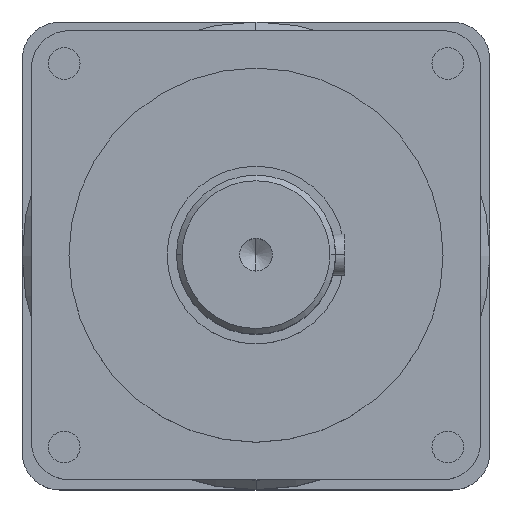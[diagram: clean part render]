
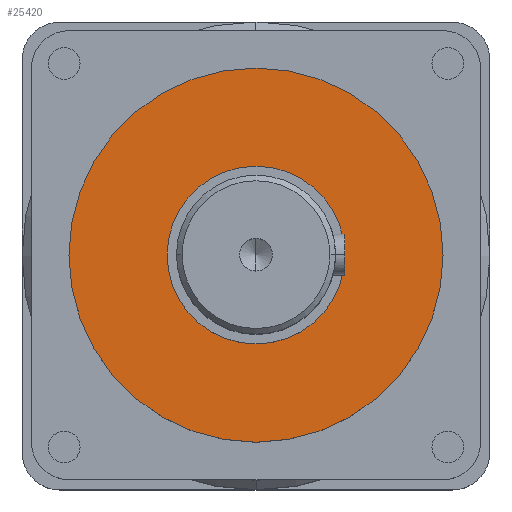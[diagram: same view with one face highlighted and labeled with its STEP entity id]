
A CAD part, top view. The second image highlights one B-rep face of the part: STEP entity #25420.
In plain terms, the highlighted planar face has unit normal (0, 0, 1).
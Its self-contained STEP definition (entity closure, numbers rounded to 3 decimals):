
#864 = AXIS2_PLACEMENT_3D ( 'NONE', #11881, #19475, #4649 ) ;
#1790 = CARTESIAN_POINT ( 'NONE',  ( -47.5, 0., 20. ) ) ;
#2071 = PLANE ( 'NONE',  #864 ) ;
#2470 = EDGE_LOOP ( 'NONE', ( #7732, #6360 ) ) ;
#2877 = AXIS2_PLACEMENT_3D ( 'NONE', #26722, #11618, #29246 ) ;
#4649 = DIRECTION ( 'NONE',  ( 1., 0., 0. ) ) ;
#4846 = ORIENTED_EDGE ( 'NONE', *, *, #22425, .T. ) ;
#4958 = AXIS2_PLACEMENT_3D ( 'NONE', #9866, #27480, #12368 ) ;
#5868 = AXIS2_PLACEMENT_3D ( 'NONE', #7609, #25138, #10039 ) ;
#6027 = VERTEX_POINT ( 'NONE', #1790 ) ;
#6122 = CARTESIAN_POINT ( 'NONE',  ( 47.5, 0., 20. ) ) ;
#6360 = ORIENTED_EDGE ( 'NONE', *, *, #15726, .F. ) ;
#7105 = CIRCLE ( 'NONE', #2877, 47.5 ) ;
#7407 = ORIENTED_EDGE ( 'NONE', *, *, #28719, .T. ) ;
#7609 = CARTESIAN_POINT ( 'NONE',  ( 0., 0., 20. ) ) ;
#7732 = ORIENTED_EDGE ( 'NONE', *, *, #8666, .F. ) ;
#8666 = EDGE_CURVE ( 'NONE', #10826, #27183, #18813, .T. ) ;
#9866 = CARTESIAN_POINT ( 'NONE',  ( 0., 0., 20. ) ) ;
#10039 = DIRECTION ( 'NONE',  ( -1., 0., 0. ) ) ;
#10098 = CIRCLE ( 'NONE', #5868, 100. ) ;
#10826 = VERTEX_POINT ( 'NONE', #17033 ) ;
#11618 = DIRECTION ( 'NONE',  ( 0., 0., -1. ) ) ;
#11881 = CARTESIAN_POINT ( 'NONE',  ( 0., 0., 20. ) ) ;
#11899 = FACE_BOUND ( 'NONE', #14459, .T. ) ;
#12368 = DIRECTION ( 'NONE',  ( -1., 0., 0. ) ) ;
#12663 = FACE_OUTER_BOUND ( 'NONE', #2470, .T. ) ;
#13128 = AXIS2_PLACEMENT_3D ( 'NONE', #29062, #13941, #31508 ) ;
#13941 = DIRECTION ( 'NONE',  ( 0., 0., -1. ) ) ;
#14459 = EDGE_LOOP ( 'NONE', ( #7407, #4846 ) ) ;
#15222 = CARTESIAN_POINT ( 'NONE',  ( 100., 0., 20. ) ) ;
#15726 = EDGE_CURVE ( 'NONE', #27183, #10826, #10098, .T. ) ;
#17033 = CARTESIAN_POINT ( 'NONE',  ( -100., 0., 20. ) ) ;
#18813 = CIRCLE ( 'NONE', #4958, 100. ) ;
#19475 = DIRECTION ( 'NONE',  ( 0., 0., 1. ) ) ;
#22295 = CIRCLE ( 'NONE', #13128, 47.5 ) ;
#22425 = EDGE_CURVE ( 'NONE', #27368, #6027, #22295, .T. ) ;
#25138 = DIRECTION ( 'NONE',  ( 0., 0., -1. ) ) ;
#25420 = ADVANCED_FACE ( 'NONE', ( #11899, #12663 ), #2071, .T. ) ;
#26722 = CARTESIAN_POINT ( 'NONE',  ( 0., 0., 20. ) ) ;
#27183 = VERTEX_POINT ( 'NONE', #15222 ) ;
#27368 = VERTEX_POINT ( 'NONE', #6122 ) ;
#27480 = DIRECTION ( 'NONE',  ( 0., 0., -1. ) ) ;
#28719 = EDGE_CURVE ( 'NONE', #6027, #27368, #7105, .T. ) ;
#29062 = CARTESIAN_POINT ( 'NONE',  ( 0., 0., 20. ) ) ;
#29246 = DIRECTION ( 'NONE',  ( -1., 0., 0. ) ) ;
#31508 = DIRECTION ( 'NONE',  ( -1., 0., 0. ) ) ;
